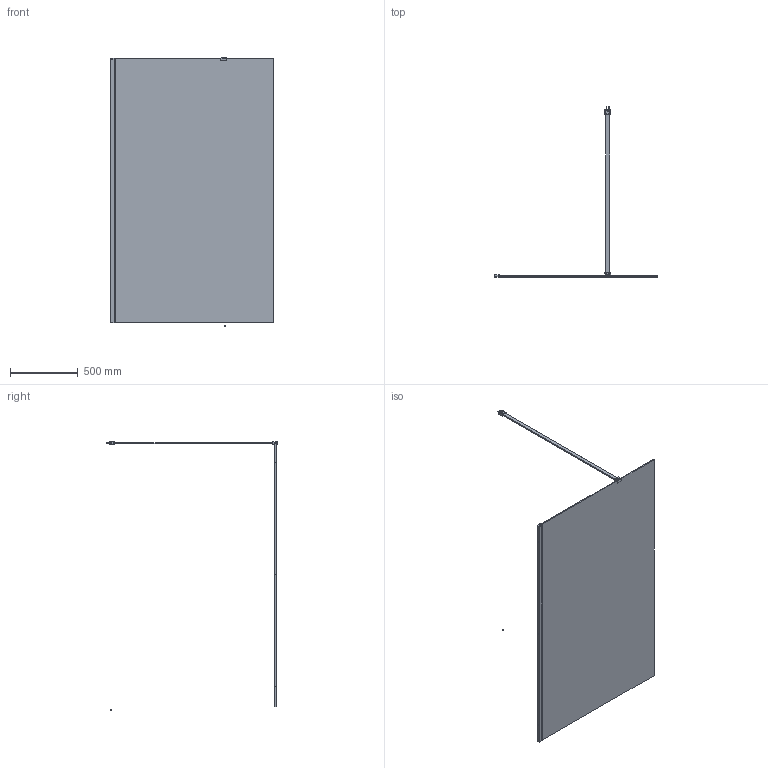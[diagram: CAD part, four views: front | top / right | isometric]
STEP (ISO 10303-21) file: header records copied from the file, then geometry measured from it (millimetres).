
FILE_DESCRIPTION((''),'2;1');
FILE_NAME('1111_ASM','2022-05-30T14:28:11',('Administrator'),(''),'CREO PARAMETRIC BY PTC INC, 2017110','CREO PARAMETRIC BY PTC INC, 2017110','');
FILE_SCHEMA(('CONFIG_CONTROL_DESIGN'));
Length unit declared in the file: millimetre
Products named in the file (18): 00_6-943_1_1_1; 00_4_1_1_1; 004_5_1_1_1; 00_3_1_1_1; 00_6-2094_1_1_1; 0044_5_1_1_1; 20001_2_1_1_1; 0045_5_1_1_1; CTZG_ST4X30_18_1_1_1; M6-8_4_1_1_1; M4-5_4_1_1_1; 0046_4_1_1_1; 00_9_1_1_1; 0-703510-1_ASM_22_ASM_1_ASM_1_A_ASM; 0-703510-1_ASM_ASM_1_ASM_1_ASM__ASM; 0-703510-1_1000_ASM_1_ASM_1_ASM; 0-703510-1_1000_ASM_ASM_1_ASM; 1111_ASM
Assembly tree (25 placements, depth 6):
  1111_ASM
    0-703510-1_1000_ASM_ASM_1_ASM
      0-703510-1_1000_ASM_1_ASM_1_ASM
        0-703510-1_ASM_ASM_1_ASM_1_ASM__ASM
          0-703510-1_ASM_22_ASM_1_ASM_1_A_ASM
            00_6-943_1_1_1
            00_4_1_1_1
            004_5_1_1_1
            00_3_1_1_1
            00_6-2094_1_1_1
            0044_5_1_1_1
            20001_2_1_1_1
            0045_5_1_1_1
            CTZG_ST4X30_18_1_1_1  x2
            M6-8_4_1_1_1  x2
            M4-5_4_1_1_1  x7
            0046_4_1_1_1
            00_9_1_1_1
Bounding box: 1200 x 1262.72 x 1979.7 mm (x, y, z)
Volume: 19720098 mm3; surface area: 4948220.2 mm2
Topology: 21 solids, 21 shells, 616 faces, 1692 edges, 1134 vertices
Faces by surface type: cylinder 299, plane 181, bspline 118, cone 12, torus 4, extrusion 2
Entity records: 20961 total; most frequent: CARTESIAN_POINT 13312, ORIENTED_EDGE 1634, DIRECTION 1354, EDGE_CURVE 817, VERTEX_POINT 551, AXIS2_PLACEMENT_3D 480, VECTOR 394, LINE 393
